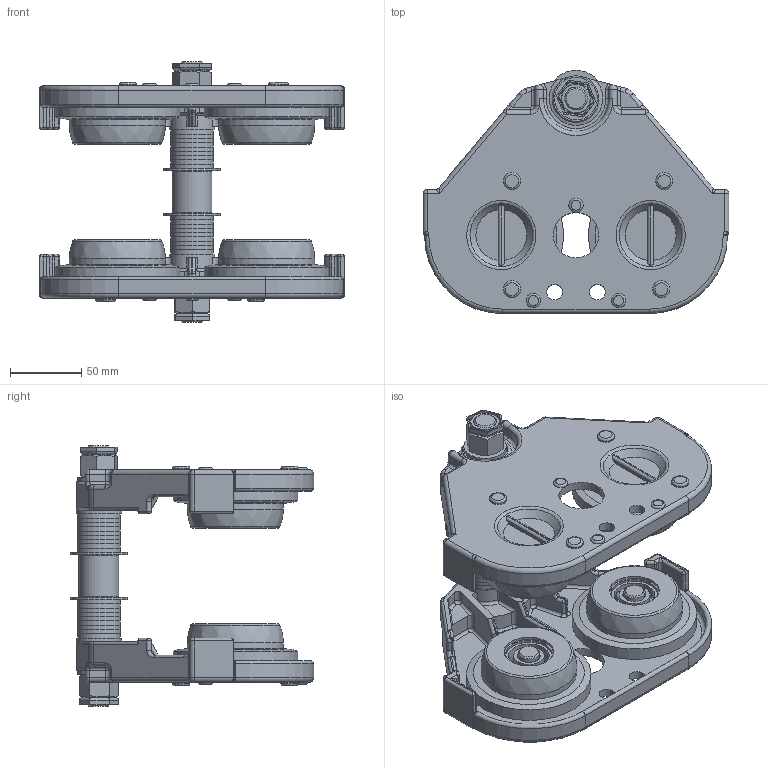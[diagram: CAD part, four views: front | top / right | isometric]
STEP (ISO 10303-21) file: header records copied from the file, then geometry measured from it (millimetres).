
FILE_DESCRIPTION((''),'2;1');
FILE_NAME('E:\3-D light\9248_9263_M.stp','2008-11-18T11:20:52',('gispen'),(''),'Autodesk Inventor 10','Autodesk Inventor 10','');
FILE_SCHEMA(('AUTOMOTIVE_DESIGN { 1 0 10303 214 1 1 1 1 }'));
Length unit declared in the file: millimetre
Products named in the file (8): EHF 50 kompl; Tragbolzen Nr1; 9247_1002_M1; 9031_3218; 9031_3219; 9031_1576; ISO 4033  M16; 9248_9261_M
Assembly tree (30 placements, depth 3):
  EHF 50 kompl
    Tragbolzen Nr1
      9247_1002_M1
      9031_3218  x2
      9031_3219  x20
      9031_1576  x2
      ISO 4033  M16  x2
    9248_9261_M  x2
Bounding box: 215 x 171 x 183 mm (x, y, z)
Volume: 982563.7 mm3; surface area: 304849.5 mm2
Topology: 31 solids, 31 shells, 1129 faces, 2499 edges, 1456 vertices
Faces by surface type: cylinder 445, plane 310, bspline 234, sphere 58, torus 54, cone 28
Full cylindrical faces by diameter (mm): 11 x4, 12 x8, 15 x4, 16 x6, 17 x22, 20 x2, 21.52 x2, 28 x1, 28.48 x2, 30 x20, 32 x4, 32.75 x2, 35 x6, 37 x4, 40 x2, 54.05 x4, 67.5 x2, 87.6 x2
Entity records: 21118 total; most frequent: CARTESIAN_POINT 9731, DIRECTION 2420, ORIENTED_EDGE 2108, EDGE_CURVE 1054, AXIS2_PLACEMENT_3D 998, EDGE_LOOP 704, VERTEX_POINT 672, FACE_OUTER_BOUND 527
